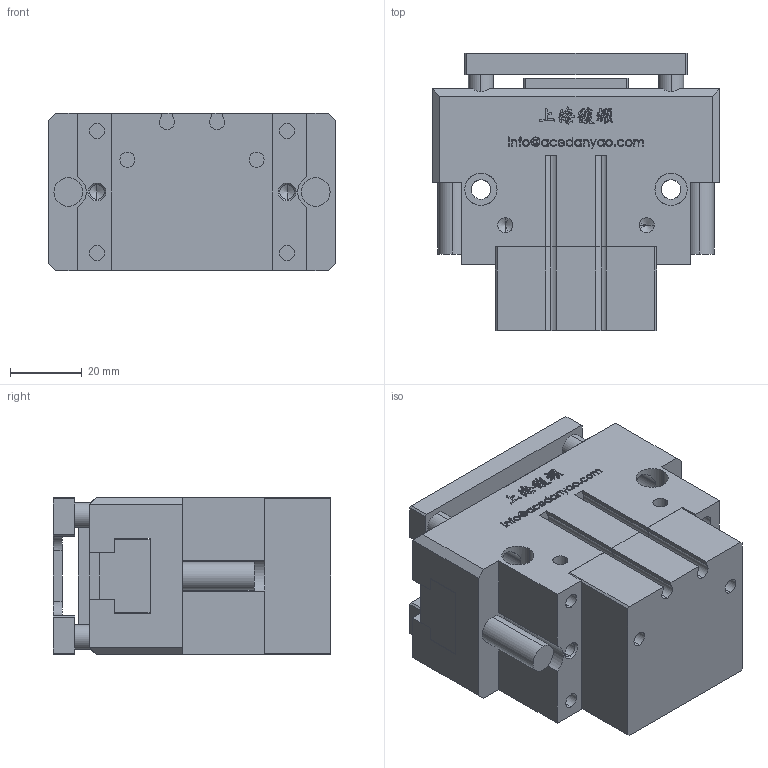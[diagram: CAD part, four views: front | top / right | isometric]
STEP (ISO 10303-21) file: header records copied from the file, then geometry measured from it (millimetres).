
FILE_DESCRIPTION (( 'STEP AP203' ), '1' );
FILE_NAME ('OPP2-80-C1-P-MC&MA-原始檔-組合-W106.04.19.STEP', '2017-04-19T00:59:24', ( 'DanyaoCAD' ), ( '' ), 'SwSTEP 2.0', 'SolidWorks 2016', '' );
FILE_SCHEMA (( 'CONFIG_CONTROL_DESIGN' ));
Length unit declared in the file: millimetre
Products named in the file (6): Coperchio; Piattello; Fondello; Griffa; Corpo; OPP2-80-C1-P-MC&MA-原始檔-組合-W106.04.19
Assembly tree (6 placements, depth 2):
  OPP2-80-C1-P-MC&MA-原始檔-組合-W106.04.19
    Coperchio
    Piattello
    Fondello
    Griffa  x2
    Corpo
Bounding box: 80 x 77.4 x 44 mm (x, y, z)
Volume: 171244.2 mm3; surface area: 56239.9 mm2
Topology: 6 solids, 6 shells, 1102 faces, 3072 edges, 2026 vertices
Faces by surface type: bspline 640, plane 300, cylinder 114, cone 48
Entity records: 51673 total; most frequent: CARTESIAN_POINT 27764, ORIENTED_EDGE 5950, EDGE_CURVE 2975, DIRECTION 2795, VERTEX_POINT 1976, LINE 1421, VECTOR 1421, B_SPLINE_CURVE_WITH_KNOTS 1302
